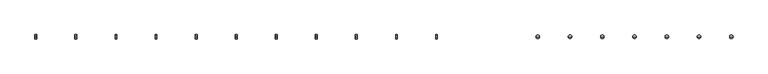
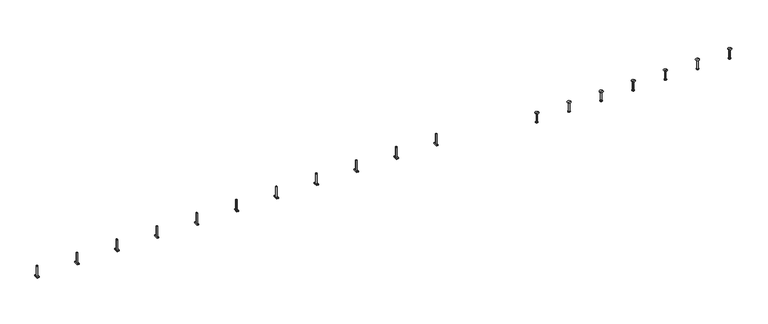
"""IFC4 building model written with IfcOpenShell, lengths in millimetres: fastener geometry, JTA-W JORDAHL® AnchorChannels : JTA-W L=6000 mm."""

from ifc_helpers import new_model, si_unit, frame, origin, place, context, project, spatial, polyline, circle_curve, source, transform, mapped, element, save
from ifc_brep_helpers import plane_surface, cylinder_surface, revolved_surface, advanced_brep


def fastener_70fd4501(model_context):
    return source(origin(), model_context, "Body", "AdvancedBrep", [
        advanced_brep(
        [(3468.8421053, 16.25, -3.0), (3468.8421053, -16.25, -3.0), (3468.8421053, -16.25, -11.0), (3468.8421053, 16.25, -11.0), (3454.8421053, 16.25, -3.0), (3454.8421053, 16.25, -11.0), (3454.8421053, -16.25, -11.0), (3454.8421053, -16.25, -3.0), (3466.8421053, 0.0, -3.0), (3456.8421053, 0.0, -3.0), (3456.8421053, 0.0, 77.0), (3466.8421053, 0.0, 77.0)],
        [
            (0, 1),
            (1, 2),
            (2, 3),
            (3, 0),
            (4, 5),
            (5, 6),
            (6, 7),
            (7, 4),
            (0, 4),
            (7, 1),
            (8, 9, circle_curve(frame((3461.8421053, 0.0, -3.0), z_axis=(0.0, 0.0, -1.0), x_axis=(1.0, 0.0, 0.0)), 5.0)),
            (9, 8, circle_curve(frame((3461.8421053, 0.0, -3.0), z_axis=(0.0, 0.0, -1.0), x_axis=(1.0, 0.0, 0.0)), 5.0)),
            (6, 2),
            (5, 3),
            (10, 11, circle_curve(frame((3461.8421053, 0.0, 77.0), z_axis=(0.0, 0.0, 1.0), x_axis=(1.0, 0.0, 0.0)), 5.0)),
            (11, 10, circle_curve(frame((3461.8421053, 0.0, 77.0), z_axis=(0.0, 0.0, 1.0), x_axis=(1.0, 0.0, 0.0)), 5.0)),
            (10, 9),
            (8, 11),
        ],
        [
            plane_surface(frame((3468.8421053, -16.25, -3.0), z_axis=(1.0, 0.0, 0.0), x_axis=(0.0, -1.0, 0.0))),
            plane_surface(frame((3454.8421053, -16.25, -3.0), z_axis=(-1.0, 0.0, 0.0), x_axis=(0.0, 1.0, 0.0))),
            plane_surface(frame((3468.8421053, 16.25, -3.0), z_axis=(0.0, 0.0, 1.0), x_axis=(-1.0, 0.0, 0.0))),
            plane_surface(frame((3468.8421053, -16.25, -3.0), z_axis=(0.0, -1.0, 0.0), x_axis=(-1.0, 0.0, 0.0))),
            plane_surface(frame((3468.8421053, -16.25, -11.0), z_axis=(0.0, 0.0, -1.0), x_axis=(-1.0, 0.0, 0.0))),
            plane_surface(frame((3468.8421053, 16.25, -11.0), z_axis=(0.0, 1.0, 0.0), x_axis=(-1.0, 0.0, 0.0))),
            plane_surface(frame((3466.8421053, 0.0, 77.0), z_axis=(0.0, 0.0, 1.0), x_axis=(0.0, 1.0, 0.0))),
            cylinder_surface(frame((3461.8421053, 0.0, -3.0), z_axis=(0.0, 0.0, 1.0), x_axis=(1.0, 0.0, 0.0)), 5.0),
        ],
        [
            (0, [[1, 2, 3, 4]]),
            (1, [[5, 6, 7, 8]]),
            (2, [[-1, 9, -8, 10], [11, 12]]),
            (3, [[-2, -10, -7, 13]]),
            (4, [[-3, -13, -6, 14]]),
            (5, [[-4, -14, -5, -9]]),
            (6, [[15, 16]]),
            (7, [[-15, 17, -11, 18]]),
            (7, [[-16, -18, -12, -17]]),
        ],
    ),
        advanced_brep(
        [(3160.9473684, 16.25, -3.0), (3160.9473684, -16.25, -3.0), (3160.9473684, -16.25, -11.0), (3160.9473684, 16.25, -11.0), (3146.9473684, 16.25, -3.0), (3146.9473684, 16.25, -11.0), (3146.9473684, -16.25, -11.0), (3146.9473684, -16.25, -3.0), (3158.9473684, 0.0, -3.0), (3148.9473684, 0.0, -3.0), (3148.9473684, 0.0, 77.0), (3158.9473684, 0.0, 77.0)],
        [
            (0, 1),
            (1, 2),
            (2, 3),
            (3, 0),
            (4, 5),
            (5, 6),
            (6, 7),
            (7, 4),
            (0, 4),
            (7, 1),
            (8, 9, circle_curve(frame((3153.9473684, 0.0, -3.0), z_axis=(0.0, 0.0, -1.0), x_axis=(1.0, 0.0, 0.0)), 5.0)),
            (9, 8, circle_curve(frame((3153.9473684, 0.0, -3.0), z_axis=(0.0, 0.0, -1.0), x_axis=(1.0, 0.0, 0.0)), 5.0)),
            (6, 2),
            (5, 3),
            (10, 11, circle_curve(frame((3153.9473684, 0.0, 77.0), z_axis=(0.0, 0.0, 1.0), x_axis=(1.0, 0.0, 0.0)), 5.0)),
            (11, 10, circle_curve(frame((3153.9473684, 0.0, 77.0), z_axis=(0.0, 0.0, 1.0), x_axis=(1.0, 0.0, 0.0)), 5.0)),
            (10, 9),
            (8, 11),
        ],
        [
            plane_surface(frame((3160.9473684, -16.25, -3.0), z_axis=(1.0, 0.0, 0.0), x_axis=(0.0, -1.0, 0.0))),
            plane_surface(frame((3146.9473684, -16.25, -3.0), z_axis=(-1.0, 0.0, 0.0), x_axis=(0.0, 1.0, 0.0))),
            plane_surface(frame((3160.9473684, 16.25, -3.0), z_axis=(0.0, 0.0, 1.0), x_axis=(-1.0, 0.0, 0.0))),
            plane_surface(frame((3160.9473684, -16.25, -3.0), z_axis=(0.0, -1.0, 0.0), x_axis=(-1.0, 0.0, 0.0))),
            plane_surface(frame((3160.9473684, -16.25, -11.0), z_axis=(0.0, 0.0, -1.0), x_axis=(-1.0, 0.0, 0.0))),
            plane_surface(frame((3160.9473684, 16.25, -11.0), z_axis=(0.0, 1.0, 0.0), x_axis=(-1.0, 0.0, 0.0))),
            plane_surface(frame((3158.9473684, 0.0, 77.0), z_axis=(0.0, 0.0, 1.0), x_axis=(0.0, 1.0, 0.0))),
            cylinder_surface(frame((3153.9473684, 0.0, -3.0), z_axis=(0.0, 0.0, 1.0), x_axis=(1.0, 0.0, 0.0)), 5.0),
        ],
        [
            (0, [[1, 2, 3, 4]]),
            (1, [[5, 6, 7, 8]]),
            (2, [[-1, 9, -8, 10], [11, 12]]),
            (3, [[-2, -10, -7, 13]]),
            (4, [[-3, -13, -6, 14]]),
            (5, [[-4, -14, -5, -9]]),
            (6, [[15, 16]]),
            (7, [[-15, 17, -11, 18]]),
            (7, [[-16, -18, -12, -17]]),
        ],
    ),
        advanced_brep(
        [(2853.0526316, 16.25, -3.0), (2853.0526316, -16.25, -3.0), (2853.0526316, -16.25, -11.0), (2853.0526316, 16.25, -11.0), (2839.0526316, 16.25, -3.0), (2839.0526316, 16.25, -11.0), (2839.0526316, -16.25, -11.0), (2839.0526316, -16.25, -3.0), (2851.0526316, 0.0, -3.0), (2841.0526316, 0.0, -3.0), (2841.0526316, 0.0, 77.0), (2851.0526316, 0.0, 77.0)],
        [
            (0, 1),
            (1, 2),
            (2, 3),
            (3, 0),
            (4, 5),
            (5, 6),
            (6, 7),
            (7, 4),
            (0, 4),
            (7, 1),
            (8, 9, circle_curve(frame((2846.0526316, 0.0, -3.0), z_axis=(0.0, 0.0, -1.0), x_axis=(1.0, 0.0, 0.0)), 5.0)),
            (9, 8, circle_curve(frame((2846.0526316, 0.0, -3.0), z_axis=(0.0, 0.0, -1.0), x_axis=(1.0, 0.0, 0.0)), 5.0)),
            (6, 2),
            (5, 3),
            (10, 11, circle_curve(frame((2846.0526316, 0.0, 77.0), z_axis=(0.0, 0.0, 1.0), x_axis=(1.0, 0.0, 0.0)), 5.0)),
            (11, 10, circle_curve(frame((2846.0526316, 0.0, 77.0), z_axis=(0.0, 0.0, 1.0), x_axis=(1.0, 0.0, 0.0)), 5.0)),
            (10, 9),
            (8, 11),
        ],
        [
            plane_surface(frame((2853.0526316, -16.25, -3.0), z_axis=(1.0, 0.0, 0.0), x_axis=(0.0, -1.0, 0.0))),
            plane_surface(frame((2839.0526316, -16.25, -3.0), z_axis=(-1.0, 0.0, 0.0), x_axis=(0.0, 1.0, 0.0))),
            plane_surface(frame((2853.0526316, 16.25, -3.0), z_axis=(0.0, 0.0, 1.0), x_axis=(-1.0, 0.0, 0.0))),
            plane_surface(frame((2853.0526316, -16.25, -3.0), z_axis=(0.0, -1.0, 0.0), x_axis=(-1.0, 0.0, 0.0))),
            plane_surface(frame((2853.0526316, -16.25, -11.0), z_axis=(0.0, 0.0, -1.0), x_axis=(-1.0, 0.0, 0.0))),
            plane_surface(frame((2853.0526316, 16.25, -11.0), z_axis=(0.0, 1.0, 0.0), x_axis=(-1.0, 0.0, 0.0))),
            plane_surface(frame((2851.0526316, 0.0, 77.0), z_axis=(0.0, 0.0, 1.0), x_axis=(0.0, 1.0, 0.0))),
            cylinder_surface(frame((2846.0526316, 0.0, -3.0), z_axis=(0.0, 0.0, 1.0), x_axis=(1.0, 0.0, 0.0)), 5.0),
        ],
        [
            (0, [[1, 2, 3, 4]]),
            (1, [[5, 6, 7, 8]]),
            (2, [[-1, 9, -8, 10], [11, 12]]),
            (3, [[-2, -10, -7, 13]]),
            (4, [[-3, -13, -6, 14]]),
            (5, [[-4, -14, -5, -9]]),
            (6, [[15, 16]]),
            (7, [[-15, 17, -11, 18]]),
            (7, [[-16, -18, -12, -17]]),
        ],
    ),
        advanced_brep(
        [(2545.1578947, 16.25, -3.0), (2545.1578947, -16.25, -3.0), (2545.1578947, -16.25, -11.0), (2545.1578947, 16.25, -11.0), (2531.1578947, 16.25, -3.0), (2531.1578947, 16.25, -11.0), (2531.1578947, -16.25, -11.0), (2531.1578947, -16.25, -3.0), (2543.1578947, 0.0, -3.0), (2533.1578947, 0.0, -3.0), (2533.1578947, 0.0, 77.0), (2543.1578947, 0.0, 77.0)],
        [
            (0, 1),
            (1, 2),
            (2, 3),
            (3, 0),
            (4, 5),
            (5, 6),
            (6, 7),
            (7, 4),
            (0, 4),
            (7, 1),
            (8, 9, circle_curve(frame((2538.1578947, 0.0, -3.0), z_axis=(0.0, 0.0, -1.0), x_axis=(1.0, 0.0, 0.0)), 5.0)),
            (9, 8, circle_curve(frame((2538.1578947, 0.0, -3.0), z_axis=(0.0, 0.0, -1.0), x_axis=(1.0, 0.0, 0.0)), 5.0)),
            (6, 2),
            (5, 3),
            (10, 11, circle_curve(frame((2538.1578947, 0.0, 77.0), z_axis=(0.0, 0.0, 1.0), x_axis=(1.0, 0.0, 0.0)), 5.0)),
            (11, 10, circle_curve(frame((2538.1578947, 0.0, 77.0), z_axis=(0.0, 0.0, 1.0), x_axis=(1.0, 0.0, 0.0)), 5.0)),
            (10, 9),
            (8, 11),
        ],
        [
            plane_surface(frame((2545.1578947, -16.25, -3.0), z_axis=(1.0, 0.0, 0.0), x_axis=(0.0, -1.0, 0.0))),
            plane_surface(frame((2531.1578947, -16.25, -3.0), z_axis=(-1.0, 0.0, 0.0), x_axis=(0.0, 1.0, 0.0))),
            plane_surface(frame((2545.1578947, 16.25, -3.0), z_axis=(0.0, 0.0, 1.0), x_axis=(-1.0, 0.0, 0.0))),
            plane_surface(frame((2545.1578947, -16.25, -3.0), z_axis=(0.0, -1.0, 0.0), x_axis=(-1.0, 0.0, 0.0))),
            plane_surface(frame((2545.1578947, -16.25, -11.0), z_axis=(0.0, 0.0, -1.0), x_axis=(-1.0, 0.0, 0.0))),
            plane_surface(frame((2545.1578947, 16.25, -11.0), z_axis=(0.0, 1.0, 0.0), x_axis=(-1.0, 0.0, 0.0))),
            plane_surface(frame((2543.1578947, 0.0, 77.0), z_axis=(0.0, 0.0, 1.0), x_axis=(0.0, 1.0, 0.0))),
            cylinder_surface(frame((2538.1578947, 0.0, -3.0), z_axis=(0.0, 0.0, 1.0), x_axis=(1.0, 0.0, 0.0)), 5.0),
        ],
        [
            (0, [[1, 2, 3, 4]]),
            (1, [[5, 6, 7, 8]]),
            (2, [[-1, 9, -8, 10], [11, 12]]),
            (3, [[-2, -10, -7, 13]]),
            (4, [[-3, -13, -6, 14]]),
            (5, [[-4, -14, -5, -9]]),
            (6, [[15, 16]]),
            (7, [[-15, 17, -11, 18]]),
            (7, [[-16, -18, -12, -17]]),
        ],
    ),
        advanced_brep(
        [(2237.2631579, 16.25, -3.0), (2237.2631579, -16.25, -3.0), (2237.2631579, -16.25, -11.0), (2237.2631579, 16.25, -11.0), (2223.2631579, 16.25, -3.0), (2223.2631579, 16.25, -11.0), (2223.2631579, -16.25, -11.0), (2223.2631579, -16.25, -3.0), (2235.2631579, 0.0, -3.0), (2225.2631579, 0.0, -3.0), (2225.2631579, 0.0, 77.0), (2235.2631579, 0.0, 77.0)],
        [
            (0, 1),
            (1, 2),
            (2, 3),
            (3, 0),
            (4, 5),
            (5, 6),
            (6, 7),
            (7, 4),
            (0, 4),
            (7, 1),
            (8, 9, circle_curve(frame((2230.2631579, 0.0, -3.0), z_axis=(0.0, 0.0, -1.0), x_axis=(1.0, 0.0, 0.0)), 5.0)),
            (9, 8, circle_curve(frame((2230.2631579, 0.0, -3.0), z_axis=(0.0, 0.0, -1.0), x_axis=(1.0, 0.0, 0.0)), 5.0)),
            (6, 2),
            (5, 3),
            (10, 11, circle_curve(frame((2230.2631579, 0.0, 77.0), z_axis=(0.0, 0.0, 1.0), x_axis=(1.0, 0.0, 0.0)), 5.0)),
            (11, 10, circle_curve(frame((2230.2631579, 0.0, 77.0), z_axis=(0.0, 0.0, 1.0), x_axis=(1.0, 0.0, 0.0)), 5.0)),
            (10, 9),
            (8, 11),
        ],
        [
            plane_surface(frame((2237.2631579, -16.25, -3.0), z_axis=(1.0, 0.0, 0.0), x_axis=(0.0, -1.0, 0.0))),
            plane_surface(frame((2223.2631579, -16.25, -3.0), z_axis=(-1.0, 0.0, 0.0), x_axis=(0.0, 1.0, 0.0))),
            plane_surface(frame((2237.2631579, 16.25, -3.0), z_axis=(0.0, 0.0, 1.0), x_axis=(-1.0, 0.0, 0.0))),
            plane_surface(frame((2237.2631579, -16.25, -3.0), z_axis=(0.0, -1.0, 0.0), x_axis=(-1.0, 0.0, 0.0))),
            plane_surface(frame((2237.2631579, -16.25, -11.0), z_axis=(0.0, 0.0, -1.0), x_axis=(-1.0, 0.0, 0.0))),
            plane_surface(frame((2237.2631579, 16.25, -11.0), z_axis=(0.0, 1.0, 0.0), x_axis=(-1.0, 0.0, 0.0))),
            plane_surface(frame((2235.2631579, 0.0, 77.0), z_axis=(0.0, 0.0, 1.0), x_axis=(0.0, 1.0, 0.0))),
            cylinder_surface(frame((2230.2631579, 0.0, -3.0), z_axis=(0.0, 0.0, 1.0), x_axis=(1.0, 0.0, 0.0)), 5.0),
        ],
        [
            (0, [[1, 2, 3, 4]]),
            (1, [[5, 6, 7, 8]]),
            (2, [[-1, 9, -8, 10], [11, 12]]),
            (3, [[-2, -10, -7, 13]]),
            (4, [[-3, -13, -6, 14]]),
            (5, [[-4, -14, -5, -9]]),
            (6, [[15, 16]]),
            (7, [[-15, 17, -11, 18]]),
            (7, [[-16, -18, -12, -17]]),
        ],
    ),
        advanced_brep(
        [(1929.3684211, 16.25, -3.0), (1929.3684211, -16.25, -3.0), (1929.3684211, -16.25, -11.0), (1929.3684211, 16.25, -11.0), (1915.3684211, 16.25, -3.0), (1915.3684211, 16.25, -11.0), (1915.3684211, -16.25, -11.0), (1915.3684211, -16.25, -3.0), (1927.3684211, 0.0, -3.0), (1917.3684211, 0.0, -3.0), (1917.3684211, 0.0, 77.0), (1927.3684211, 0.0, 77.0)],
        [
            (0, 1),
            (1, 2),
            (2, 3),
            (3, 0),
            (4, 5),
            (5, 6),
            (6, 7),
            (7, 4),
            (0, 4),
            (7, 1),
            (8, 9, circle_curve(frame((1922.3684211, 0.0, -3.0), z_axis=(0.0, 0.0, -1.0), x_axis=(1.0, 0.0, 0.0)), 5.0)),
            (9, 8, circle_curve(frame((1922.3684211, 0.0, -3.0), z_axis=(0.0, 0.0, -1.0), x_axis=(1.0, 0.0, 0.0)), 5.0)),
            (6, 2),
            (5, 3),
            (10, 11, circle_curve(frame((1922.3684211, 0.0, 77.0), z_axis=(0.0, 0.0, 1.0), x_axis=(1.0, 0.0, 0.0)), 5.0)),
            (11, 10, circle_curve(frame((1922.3684211, 0.0, 77.0), z_axis=(0.0, 0.0, 1.0), x_axis=(1.0, 0.0, 0.0)), 5.0)),
            (10, 9),
            (8, 11),
        ],
        [
            plane_surface(frame((1929.3684211, -16.25, -3.0), z_axis=(1.0, 0.0, 0.0), x_axis=(0.0, -1.0, 0.0))),
            plane_surface(frame((1915.3684211, -16.25, -3.0), z_axis=(-1.0, 0.0, 0.0), x_axis=(0.0, 1.0, 0.0))),
            plane_surface(frame((1929.3684211, 16.25, -3.0), z_axis=(0.0, 0.0, 1.0), x_axis=(-1.0, 0.0, 0.0))),
            plane_surface(frame((1929.3684211, -16.25, -3.0), z_axis=(0.0, -1.0, 0.0), x_axis=(-1.0, 0.0, 0.0))),
            plane_surface(frame((1929.3684211, -16.25, -11.0), z_axis=(0.0, 0.0, -1.0), x_axis=(-1.0, 0.0, 0.0))),
            plane_surface(frame((1929.3684211, 16.25, -11.0), z_axis=(0.0, 1.0, 0.0), x_axis=(-1.0, 0.0, 0.0))),
            plane_surface(frame((1927.3684211, 0.0, 77.0), z_axis=(0.0, 0.0, 1.0), x_axis=(0.0, 1.0, 0.0))),
            cylinder_surface(frame((1922.3684211, 0.0, -3.0), z_axis=(0.0, 0.0, 1.0), x_axis=(1.0, 0.0, 0.0)), 5.0),
        ],
        [
            (0, [[1, 2, 3, 4]]),
            (1, [[5, 6, 7, 8]]),
            (2, [[-1, 9, -8, 10], [11, 12]]),
            (3, [[-2, -10, -7, 13]]),
            (4, [[-3, -13, -6, 14]]),
            (5, [[-4, -14, -5, -9]]),
            (6, [[15, 16]]),
            (7, [[-15, 17, -11, 18]]),
            (7, [[-16, -18, -12, -17]]),
        ],
    ),
        advanced_brep(
        [(1621.4736842, 16.25, -3.0), (1621.4736842, -16.25, -3.0), (1621.4736842, -16.25, -11.0), (1621.4736842, 16.25, -11.0), (1607.4736842, 16.25, -3.0), (1607.4736842, 16.25, -11.0), (1607.4736842, -16.25, -11.0), (1607.4736842, -16.25, -3.0), (1619.4736842, 0.0, -3.0), (1609.4736842, 0.0, -3.0), (1609.4736842, 0.0, 77.0), (1619.4736842, 0.0, 77.0)],
        [
            (0, 1),
            (1, 2),
            (2, 3),
            (3, 0),
            (4, 5),
            (5, 6),
            (6, 7),
            (7, 4),
            (0, 4),
            (7, 1),
            (8, 9, circle_curve(frame((1614.4736842, 0.0, -3.0), z_axis=(0.0, 0.0, -1.0), x_axis=(1.0, 0.0, 0.0)), 5.0)),
            (9, 8, circle_curve(frame((1614.4736842, 0.0, -3.0), z_axis=(0.0, 0.0, -1.0), x_axis=(1.0, 0.0, 0.0)), 5.0)),
            (6, 2),
            (5, 3),
            (10, 11, circle_curve(frame((1614.4736842, 0.0, 77.0), z_axis=(0.0, 0.0, 1.0), x_axis=(1.0, 0.0, 0.0)), 5.0)),
            (11, 10, circle_curve(frame((1614.4736842, 0.0, 77.0), z_axis=(0.0, 0.0, 1.0), x_axis=(1.0, 0.0, 0.0)), 5.0)),
            (10, 9),
            (8, 11),
        ],
        [
            plane_surface(frame((1621.4736842, -16.25, -3.0), z_axis=(1.0, 0.0, 0.0), x_axis=(0.0, -1.0, 0.0))),
            plane_surface(frame((1607.4736842, -16.25, -3.0), z_axis=(-1.0, 0.0, 0.0), x_axis=(0.0, 1.0, 0.0))),
            plane_surface(frame((1621.4736842, 16.25, -3.0), z_axis=(0.0, 0.0, 1.0), x_axis=(-1.0, 0.0, 0.0))),
            plane_surface(frame((1621.4736842, -16.25, -3.0), z_axis=(0.0, -1.0, 0.0), x_axis=(-1.0, 0.0, 0.0))),
            plane_surface(frame((1621.4736842, -16.25, -11.0), z_axis=(0.0, 0.0, -1.0), x_axis=(-1.0, 0.0, 0.0))),
            plane_surface(frame((1621.4736842, 16.25, -11.0), z_axis=(0.0, 1.0, 0.0), x_axis=(-1.0, 0.0, 0.0))),
            plane_surface(frame((1619.4736842, 0.0, 77.0), z_axis=(0.0, 0.0, 1.0), x_axis=(0.0, 1.0, 0.0))),
            cylinder_surface(frame((1614.4736842, 0.0, -3.0), z_axis=(0.0, 0.0, 1.0), x_axis=(1.0, 0.0, 0.0)), 5.0),
        ],
        [
            (0, [[1, 2, 3, 4]]),
            (1, [[5, 6, 7, 8]]),
            (2, [[-1, 9, -8, 10], [11, 12]]),
            (3, [[-2, -10, -7, 13]]),
            (4, [[-3, -13, -6, 14]]),
            (5, [[-4, -14, -5, -9]]),
            (6, [[15, 16]]),
            (7, [[-15, 17, -11, 18]]),
            (7, [[-16, -18, -12, -17]]),
        ],
    ),
        advanced_brep(
        [(1313.5789474, 16.25, -3.0), (1313.5789474, -16.25, -3.0), (1313.5789474, -16.25, -11.0), (1313.5789474, 16.25, -11.0), (1299.5789474, 16.25, -3.0), (1299.5789474, 16.25, -11.0), (1299.5789474, -16.25, -11.0), (1299.5789474, -16.25, -3.0), (1311.5789474, 0.0, -3.0), (1301.5789474, 0.0, -3.0), (1301.5789474, 0.0, 77.0), (1311.5789474, 0.0, 77.0)],
        [
            (0, 1),
            (1, 2),
            (2, 3),
            (3, 0),
            (4, 5),
            (5, 6),
            (6, 7),
            (7, 4),
            (0, 4),
            (7, 1),
            (8, 9, circle_curve(frame((1306.5789474, 0.0, -3.0), z_axis=(0.0, 0.0, -1.0), x_axis=(1.0, 0.0, 0.0)), 5.0)),
            (9, 8, circle_curve(frame((1306.5789474, 0.0, -3.0), z_axis=(0.0, 0.0, -1.0), x_axis=(1.0, 0.0, 0.0)), 5.0)),
            (6, 2),
            (5, 3),
            (10, 11, circle_curve(frame((1306.5789474, 0.0, 77.0), z_axis=(0.0, 0.0, 1.0), x_axis=(1.0, 0.0, 0.0)), 5.0)),
            (11, 10, circle_curve(frame((1306.5789474, 0.0, 77.0), z_axis=(0.0, 0.0, 1.0), x_axis=(1.0, 0.0, 0.0)), 5.0)),
            (10, 9),
            (8, 11),
        ],
        [
            plane_surface(frame((1313.5789474, -16.25, -3.0), z_axis=(1.0, 0.0, 0.0), x_axis=(0.0, -1.0, 0.0))),
            plane_surface(frame((1299.5789474, -16.25, -3.0), z_axis=(-1.0, 0.0, 0.0), x_axis=(0.0, 1.0, 0.0))),
            plane_surface(frame((1313.5789474, 16.25, -3.0), z_axis=(0.0, 0.0, 1.0), x_axis=(-1.0, 0.0, 0.0))),
            plane_surface(frame((1313.5789474, -16.25, -3.0), z_axis=(0.0, -1.0, 0.0), x_axis=(-1.0, 0.0, 0.0))),
            plane_surface(frame((1313.5789474, -16.25, -11.0), z_axis=(0.0, 0.0, -1.0), x_axis=(-1.0, 0.0, 0.0))),
            plane_surface(frame((1313.5789474, 16.25, -11.0), z_axis=(0.0, 1.0, 0.0), x_axis=(-1.0, 0.0, 0.0))),
            plane_surface(frame((1311.5789474, 0.0, 77.0), z_axis=(0.0, 0.0, 1.0), x_axis=(0.0, 1.0, 0.0))),
            cylinder_surface(frame((1306.5789474, 0.0, -3.0), z_axis=(0.0, 0.0, 1.0), x_axis=(1.0, 0.0, 0.0)), 5.0),
        ],
        [
            (0, [[1, 2, 3, 4]]),
            (1, [[5, 6, 7, 8]]),
            (2, [[-1, 9, -8, 10], [11, 12]]),
            (3, [[-2, -10, -7, 13]]),
            (4, [[-3, -13, -6, 14]]),
            (5, [[-4, -14, -5, -9]]),
            (6, [[15, 16]]),
            (7, [[-15, 17, -11, 18]]),
            (7, [[-16, -18, -12, -17]]),
        ],
    ),
        advanced_brep(
        [(1005.6842105, 16.25, -3.0), (1005.6842105, -16.25, -3.0), (1005.6842105, -16.25, -11.0), (1005.6842105, 16.25, -11.0), (991.6842105, 16.25, -3.0), (991.6842105, 16.25, -11.0), (991.6842105, -16.25, -11.0), (991.6842105, -16.25, -3.0), (1003.6842105, 0.0, -3.0), (993.6842105, 0.0, -3.0), (993.6842105, 0.0, 77.0), (1003.6842105, 0.0, 77.0)],
        [
            (0, 1),
            (1, 2),
            (2, 3),
            (3, 0),
            (4, 5),
            (5, 6),
            (6, 7),
            (7, 4),
            (0, 4),
            (7, 1),
            (8, 9, circle_curve(frame((998.6842105, 0.0, -3.0), z_axis=(0.0, 0.0, -1.0), x_axis=(1.0, 0.0, 0.0)), 5.0)),
            (9, 8, circle_curve(frame((998.6842105, 0.0, -3.0), z_axis=(0.0, 0.0, -1.0), x_axis=(1.0, 0.0, 0.0)), 5.0)),
            (6, 2),
            (5, 3),
            (10, 11, circle_curve(frame((998.6842105, 0.0, 77.0), z_axis=(0.0, 0.0, 1.0), x_axis=(1.0, 0.0, 0.0)), 5.0)),
            (11, 10, circle_curve(frame((998.6842105, 0.0, 77.0), z_axis=(0.0, 0.0, 1.0), x_axis=(1.0, 0.0, 0.0)), 5.0)),
            (10, 9),
            (8, 11),
        ],
        [
            plane_surface(frame((1005.6842105, -16.25, -3.0), z_axis=(1.0, 0.0, 0.0), x_axis=(0.0, -1.0, 0.0))),
            plane_surface(frame((991.6842105, -16.25, -3.0), z_axis=(-1.0, 0.0, 0.0), x_axis=(0.0, 1.0, 0.0))),
            plane_surface(frame((1005.6842105, 16.25, -3.0), z_axis=(0.0, 0.0, 1.0), x_axis=(-1.0, 0.0, 0.0))),
            plane_surface(frame((1005.6842105, -16.25, -3.0), z_axis=(0.0, -1.0, 0.0), x_axis=(-1.0, 0.0, 0.0))),
            plane_surface(frame((1005.6842105, -16.25, -11.0), z_axis=(0.0, 0.0, -1.0), x_axis=(-1.0, 0.0, 0.0))),
            plane_surface(frame((1005.6842105, 16.25, -11.0), z_axis=(0.0, 1.0, 0.0), x_axis=(-1.0, 0.0, 0.0))),
            plane_surface(frame((1003.6842105, 0.0, 77.0), z_axis=(0.0, 0.0, 1.0), x_axis=(0.0, 1.0, 0.0))),
            cylinder_surface(frame((998.6842105, 0.0, -3.0), z_axis=(0.0, 0.0, 1.0), x_axis=(1.0, 0.0, 0.0)), 5.0),
        ],
        [
            (0, [[1, 2, 3, 4]]),
            (1, [[5, 6, 7, 8]]),
            (2, [[-1, 9, -8, 10], [11, 12]]),
            (3, [[-2, -10, -7, 13]]),
            (4, [[-3, -13, -6, 14]]),
            (5, [[-4, -14, -5, -9]]),
            (6, [[15, 16]]),
            (7, [[-15, 17, -11, 18]]),
            (7, [[-16, -18, -12, -17]]),
        ],
    ),
        advanced_brep(
        [(697.7894737, 16.25, -3.0), (697.7894737, -16.25, -3.0), (697.7894737, -16.25, -11.0), (697.7894737, 16.25, -11.0), (683.7894737, 16.25, -3.0), (683.7894737, 16.25, -11.0), (683.7894737, -16.25, -11.0), (683.7894737, -16.25, -3.0), (695.7894737, 0.0, -3.0), (685.7894737, 0.0, -3.0), (685.7894737, 0.0, 77.0), (695.7894737, 0.0, 77.0)],
        [
            (0, 1),
            (1, 2),
            (2, 3),
            (3, 0),
            (4, 5),
            (5, 6),
            (6, 7),
            (7, 4),
            (0, 4),
            (7, 1),
            (8, 9, circle_curve(frame((690.7894737, 0.0, -3.0), z_axis=(0.0, 0.0, -1.0), x_axis=(1.0, 0.0, 0.0)), 5.0)),
            (9, 8, circle_curve(frame((690.7894737, 0.0, -3.0), z_axis=(0.0, 0.0, -1.0), x_axis=(1.0, 0.0, 0.0)), 5.0)),
            (6, 2),
            (5, 3),
            (10, 11, circle_curve(frame((690.7894737, 0.0, 77.0), z_axis=(0.0, 0.0, 1.0), x_axis=(1.0, 0.0, 0.0)), 5.0)),
            (11, 10, circle_curve(frame((690.7894737, 0.0, 77.0), z_axis=(0.0, 0.0, 1.0), x_axis=(1.0, 0.0, 0.0)), 5.0)),
            (10, 9),
            (8, 11),
        ],
        [
            plane_surface(frame((697.7894737, -16.25, -3.0), z_axis=(1.0, 0.0, 0.0), x_axis=(0.0, -1.0, 0.0))),
            plane_surface(frame((683.7894737, -16.25, -3.0), z_axis=(-1.0, 0.0, 0.0), x_axis=(0.0, 1.0, 0.0))),
            plane_surface(frame((697.7894737, 16.25, -3.0), z_axis=(0.0, 0.0, 1.0), x_axis=(-1.0, 0.0, 0.0))),
            plane_surface(frame((697.7894737, -16.25, -3.0), z_axis=(0.0, -1.0, 0.0), x_axis=(-1.0, 0.0, 0.0))),
            plane_surface(frame((697.7894737, -16.25, -11.0), z_axis=(0.0, 0.0, -1.0), x_axis=(-1.0, 0.0, 0.0))),
            plane_surface(frame((697.7894737, 16.25, -11.0), z_axis=(0.0, 1.0, 0.0), x_axis=(-1.0, 0.0, 0.0))),
            plane_surface(frame((695.7894737, 0.0, 77.0), z_axis=(0.0, 0.0, 1.0), x_axis=(0.0, 1.0, 0.0))),
            cylinder_surface(frame((690.7894737, 0.0, -3.0), z_axis=(0.0, 0.0, 1.0), x_axis=(1.0, 0.0, 0.0)), 5.0),
        ],
        [
            (0, [[1, 2, 3, 4]]),
            (1, [[5, 6, 7, 8]]),
            (2, [[-1, 9, -8, 10], [11, 12]]),
            (3, [[-2, -10, -7, 13]]),
            (4, [[-3, -13, -6, 14]]),
            (5, [[-4, -14, -5, -9]]),
            (6, [[15, 16]]),
            (7, [[-15, 17, -11, 18]]),
            (7, [[-16, -18, -12, -17]]),
        ],
    ),
        advanced_brep(
        [(389.8947368, 16.25, -3.0), (389.8947368, -16.25, -3.0), (389.8947368, -16.25, -11.0), (389.8947368, 16.25, -11.0), (375.8947368, 16.25, -3.0), (375.8947368, 16.25, -11.0), (375.8947368, -16.25, -11.0), (375.8947368, -16.25, -3.0), (387.8947368, 0.0, -3.0), (377.8947368, 0.0, -3.0), (377.8947368, 0.0, 77.0), (387.8947368, 0.0, 77.0)],
        [
            (0, 1),
            (1, 2),
            (2, 3),
            (3, 0),
            (4, 5),
            (5, 6),
            (6, 7),
            (7, 4),
            (0, 4),
            (7, 1),
            (8, 9, circle_curve(frame((382.8947368, 0.0, -3.0), z_axis=(0.0, 0.0, -1.0), x_axis=(1.0, 0.0, 0.0)), 5.0)),
            (9, 8, circle_curve(frame((382.8947368, 0.0, -3.0), z_axis=(0.0, 0.0, -1.0), x_axis=(1.0, 0.0, 0.0)), 5.0)),
            (6, 2),
            (5, 3),
            (10, 11, circle_curve(frame((382.8947368, 0.0, 77.0), z_axis=(0.0, 0.0, 1.0), x_axis=(1.0, 0.0, 0.0)), 5.0)),
            (11, 10, circle_curve(frame((382.8947368, 0.0, 77.0), z_axis=(0.0, 0.0, 1.0), x_axis=(1.0, 0.0, 0.0)), 5.0)),
            (10, 9),
            (8, 11),
        ],
        [
            plane_surface(frame((389.8947368, -16.25, -3.0), z_axis=(1.0, 0.0, 0.0), x_axis=(0.0, -1.0, 0.0))),
            plane_surface(frame((375.8947368, -16.25, -3.0), z_axis=(-1.0, 0.0, 0.0), x_axis=(0.0, 1.0, 0.0))),
            plane_surface(frame((389.8947368, 16.25, -3.0), z_axis=(0.0, 0.0, 1.0), x_axis=(-1.0, 0.0, 0.0))),
            plane_surface(frame((389.8947368, -16.25, -3.0), z_axis=(0.0, -1.0, 0.0), x_axis=(-1.0, 0.0, 0.0))),
            plane_surface(frame((389.8947368, -16.25, -11.0), z_axis=(0.0, 0.0, -1.0), x_axis=(-1.0, 0.0, 0.0))),
            plane_surface(frame((389.8947368, 16.25, -11.0), z_axis=(0.0, 1.0, 0.0), x_axis=(-1.0, 0.0, 0.0))),
            plane_surface(frame((387.8947368, 0.0, 77.0), z_axis=(0.0, 0.0, 1.0), x_axis=(0.0, 1.0, 0.0))),
            cylinder_surface(frame((382.8947368, 0.0, -3.0), z_axis=(0.0, 0.0, 1.0), x_axis=(1.0, 0.0, 0.0)), 5.0),
        ],
        [
            (0, [[1, 2, 3, 4]]),
            (1, [[5, 6, 7, 8]]),
            (2, [[-1, 9, -8, 10], [11, 12]]),
            (3, [[-2, -10, -7, 13]]),
            (4, [[-3, -13, -6, 14]]),
            (5, [[-4, -14, -5, -9]]),
            (6, [[15, 16]]),
            (7, [[-15, 17, -11, 18]]),
            (7, [[-16, -18, -12, -17]]),
        ],
    ),
        advanced_brep(
        [(5727.0833333, 0.0, -22.0), (5740.5833333, 0.0, -22.0), (5713.5833333, 0.0, -22.0), (5718.5833333, 0.0, -100.0), (5735.5833333, 0.0, -100.0), (5727.0833333, 0.0, -100.0), (5718.5833333, 0.0, -98.0), (5735.5833333, 0.0, -98.0), (5722.5833333, 0.0, -95.6905989), (5731.5833333, 0.0, -95.6905989), (5722.5833333, 0.0, -24.5), (5731.5833333, 0.0, -24.5)],
        [
            (0, 1),
            (1, 2, circle_curve(frame((5727.0833333, 0.0, -22.0), z_axis=(0.0, 0.0, 1.0), x_axis=(1.0, 0.0, 0.0)), 13.5)),
            (2, 0),
            (2, 1, circle_curve(frame((5727.0833333, 0.0, -22.0), z_axis=(0.0, 0.0, 1.0), x_axis=(1.0, 0.0, 0.0)), 13.5)),
            (3, 4, circle_curve(frame((5727.0833333, 0.0, -100.0), z_axis=(0.0, 0.0, -1.0), x_axis=(1.0, 0.0, 0.0)), 8.5)),
            (4, 5),
            (5, 3),
            (4, 3, circle_curve(frame((5727.0833333, 0.0, -100.0), z_axis=(0.0, 0.0, -1.0), x_axis=(1.0, 0.0, 0.0)), 8.5)),
            (6, 7, circle_curve(frame((5727.0833333, 0.0, -98.0), z_axis=(0.0, 0.0, -1.0), x_axis=(1.0, 0.0, 0.0)), 8.5)),
            (7, 4),
            (3, 6),
            (7, 6, circle_curve(frame((5727.0833333, 0.0, -98.0), z_axis=(0.0, 0.0, -1.0), x_axis=(1.0, 0.0, 0.0)), 8.5)),
            (8, 9, circle_curve(frame((5727.0833333, 0.0, -95.6905989), z_axis=(0.0, 0.0, -1.0), x_axis=(1.0, 0.0, 0.0)), 4.5)),
            (9, 7),
            (6, 8),
            (9, 8, circle_curve(frame((5727.0833333, 0.0, -95.6905989), z_axis=(0.0, 0.0, -1.0), x_axis=(1.0, 0.0, 0.0)), 4.5)),
            (10, 11, circle_curve(frame((5727.0833333, 0.0, -24.5), z_axis=(0.0, 0.0, -1.0), x_axis=(1.0, 0.0, 0.0)), 4.5)),
            (11, 9),
            (8, 10),
            (11, 10, circle_curve(frame((5727.0833333, 0.0, -24.5), z_axis=(0.0, 0.0, -1.0), x_axis=(1.0, 0.0, 0.0)), 4.5)),
            (1, 11),
            (10, 2),
        ],
        [
            plane_surface(frame((5727.0833333, 0.0, -22.0), z_axis=(0.0, 0.0, 1.0), x_axis=(1.0, 0.0, 0.0))),
            plane_surface(frame((5727.0833333, 0.0, -100.0), z_axis=(0.0, 0.0, -1.0), x_axis=(1.0, 0.0, 0.0))),
            cylinder_surface(frame((5727.0833333, 0.0, 2292.3150031), z_axis=(0.0, 0.0, 1.0), x_axis=(1.0, 0.0, 0.0)), 8.5),
            revolved_surface(polyline([(5735.5833333, 0.0, -98.0), (5731.5833333, 0.0, -95.6905989)]), (5727.0833333, 0.0, 2292.3150031), (0.0, 0.0, 1.0)),
            cylinder_surface(frame((5727.0833333, 0.0, 2292.3150031), z_axis=(0.0, 0.0, 1.0), x_axis=(1.0, 0.0, 0.0)), 4.5),
            revolved_surface(polyline([(5731.5833333, 0.0, -24.5), (5740.5833333, 0.0, -22.0)]), (5727.0833333, 0.0, 2292.3150031), (0.0, 0.0, 1.0)),
        ],
        [
            (0, [[1, 2, 3]]),
            (0, [[-3, 4, -1]]),
            (1, [[5, 6, 7]]),
            (1, [[8, -7, -6]]),
            (2, [[9, 10, -5, 11]]),
            (2, [[12, -11, -8, -10]]),
            (3, [[13, 14, -9, 15]]),
            (3, [[16, -15, -12, -14]]),
            (4, [[17, 18, -13, 19]]),
            (4, [[20, -19, -16, -18]]),
            (5, [[-2, 21, -17, 22]]),
            (5, [[-4, -22, -20, -21]]),
        ],
    ),
        advanced_brep(
        [(5479.1666667, 0.0, -22.0), (5492.6666667, 0.0, -22.0), (5465.6666667, 0.0, -22.0), (5470.6666667, 0.0, -100.0), (5487.6666667, 0.0, -100.0), (5479.1666667, 0.0, -100.0), (5470.6666667, 0.0, -98.0), (5487.6666667, 0.0, -98.0), (5474.6666667, 0.0, -95.6905989), (5483.6666667, 0.0, -95.6905989), (5474.6666667, 0.0, -24.5), (5483.6666667, 0.0, -24.5)],
        [
            (0, 1),
            (1, 2, circle_curve(frame((5479.1666667, 0.0, -22.0), z_axis=(0.0, 0.0, 1.0), x_axis=(1.0, 0.0, 0.0)), 13.5)),
            (2, 0),
            (2, 1, circle_curve(frame((5479.1666667, 0.0, -22.0), z_axis=(0.0, 0.0, 1.0), x_axis=(1.0, 0.0, 0.0)), 13.5)),
            (3, 4, circle_curve(frame((5479.1666667, 0.0, -100.0), z_axis=(0.0, 0.0, -1.0), x_axis=(1.0, 0.0, 0.0)), 8.5)),
            (4, 5),
            (5, 3),
            (4, 3, circle_curve(frame((5479.1666667, 0.0, -100.0), z_axis=(0.0, 0.0, -1.0), x_axis=(1.0, 0.0, 0.0)), 8.5)),
            (6, 7, circle_curve(frame((5479.1666667, 0.0, -98.0), z_axis=(0.0, 0.0, -1.0), x_axis=(1.0, 0.0, 0.0)), 8.5)),
            (7, 4),
            (3, 6),
            (7, 6, circle_curve(frame((5479.1666667, 0.0, -98.0), z_axis=(0.0, 0.0, -1.0), x_axis=(1.0, 0.0, 0.0)), 8.5)),
            (8, 9, circle_curve(frame((5479.1666667, 0.0, -95.6905989), z_axis=(0.0, 0.0, -1.0), x_axis=(1.0, 0.0, 0.0)), 4.5)),
            (9, 7),
            (6, 8),
            (9, 8, circle_curve(frame((5479.1666667, 0.0, -95.6905989), z_axis=(0.0, 0.0, -1.0), x_axis=(1.0, 0.0, 0.0)), 4.5)),
            (10, 11, circle_curve(frame((5479.1666667, 0.0, -24.5), z_axis=(0.0, 0.0, -1.0), x_axis=(1.0, 0.0, 0.0)), 4.5)),
            (11, 9),
            (8, 10),
            (11, 10, circle_curve(frame((5479.1666667, 0.0, -24.5), z_axis=(0.0, 0.0, -1.0), x_axis=(1.0, 0.0, 0.0)), 4.5)),
            (1, 11),
            (10, 2),
        ],
        [
            plane_surface(frame((5479.1666667, 0.0, -22.0), z_axis=(0.0, 0.0, 1.0), x_axis=(1.0, 0.0, 0.0))),
            plane_surface(frame((5479.1666667, 0.0, -100.0), z_axis=(0.0, 0.0, -1.0), x_axis=(1.0, 0.0, 0.0))),
            cylinder_surface(frame((5479.1666667, 0.0, 2292.3150031), z_axis=(0.0, 0.0, 1.0), x_axis=(1.0, 0.0, 0.0)), 8.5),
            revolved_surface(polyline([(5487.6666667, 0.0, -98.0), (5483.6666667, 0.0, -95.6905989)]), (5479.1666667, 0.0, 2292.3150031), (0.0, 0.0, 1.0)),
            cylinder_surface(frame((5479.1666667, 0.0, 2292.3150031), z_axis=(0.0, 0.0, 1.0), x_axis=(1.0, 0.0, 0.0)), 4.5),
            revolved_surface(polyline([(5483.6666667, 0.0, -24.5), (5492.6666667, 0.0, -22.0)]), (5479.1666667, 0.0, 2292.3150031), (0.0, 0.0, 1.0)),
        ],
        [
            (0, [[1, 2, 3]]),
            (0, [[-3, 4, -1]]),
            (1, [[5, 6, 7]]),
            (1, [[8, -7, -6]]),
            (2, [[9, 10, -5, 11]]),
            (2, [[12, -11, -8, -10]]),
            (3, [[13, 14, -9, 15]]),
            (3, [[16, -15, -12, -14]]),
            (4, [[17, 18, -13, 19]]),
            (4, [[20, -19, -16, -18]]),
            (5, [[-2, 21, -17, 22]]),
            (5, [[-4, -22, -20, -21]]),
        ],
    ),
        advanced_brep(
        [(5231.25, 0.0, -22.0), (5244.75, 0.0, -22.0), (5217.75, 0.0, -22.0), (5222.75, 0.0, -100.0), (5239.75, 0.0, -100.0), (5231.25, 0.0, -100.0), (5222.75, 0.0, -98.0), (5239.75, 0.0, -98.0), (5226.75, 0.0, -95.6905989), (5235.75, 0.0, -95.6905989), (5226.75, 0.0, -24.5), (5235.75, 0.0, -24.5)],
        [
            (0, 1),
            (1, 2, circle_curve(frame((5231.25, 0.0, -22.0), z_axis=(0.0, 0.0, 1.0), x_axis=(1.0, 0.0, 0.0)), 13.5)),
            (2, 0),
            (2, 1, circle_curve(frame((5231.25, 0.0, -22.0), z_axis=(0.0, 0.0, 1.0), x_axis=(1.0, 0.0, 0.0)), 13.5)),
            (3, 4, circle_curve(frame((5231.25, 0.0, -100.0), z_axis=(0.0, 0.0, -1.0), x_axis=(1.0, 0.0, 0.0)), 8.5)),
            (4, 5),
            (5, 3),
            (4, 3, circle_curve(frame((5231.25, 0.0, -100.0), z_axis=(0.0, 0.0, -1.0), x_axis=(1.0, 0.0, 0.0)), 8.5)),
            (6, 7, circle_curve(frame((5231.25, 0.0, -98.0), z_axis=(0.0, 0.0, -1.0), x_axis=(1.0, 0.0, 0.0)), 8.5)),
            (7, 4),
            (3, 6),
            (7, 6, circle_curve(frame((5231.25, 0.0, -98.0), z_axis=(0.0, 0.0, -1.0), x_axis=(1.0, 0.0, 0.0)), 8.5)),
            (8, 9, circle_curve(frame((5231.25, 0.0, -95.6905989), z_axis=(0.0, 0.0, -1.0), x_axis=(1.0, 0.0, 0.0)), 4.5)),
            (9, 7),
            (6, 8),
            (9, 8, circle_curve(frame((5231.25, 0.0, -95.6905989), z_axis=(0.0, 0.0, -1.0), x_axis=(1.0, 0.0, 0.0)), 4.5)),
            (10, 11, circle_curve(frame((5231.25, 0.0, -24.5), z_axis=(0.0, 0.0, -1.0), x_axis=(1.0, 0.0, 0.0)), 4.5)),
            (11, 9),
            (8, 10),
            (11, 10, circle_curve(frame((5231.25, 0.0, -24.5), z_axis=(0.0, 0.0, -1.0), x_axis=(1.0, 0.0, 0.0)), 4.5)),
            (1, 11),
            (10, 2),
        ],
        [
            plane_surface(frame((5231.25, 0.0, -22.0), z_axis=(0.0, 0.0, 1.0), x_axis=(1.0, 0.0, 0.0))),
            plane_surface(frame((5231.25, 0.0, -100.0), z_axis=(0.0, 0.0, -1.0), x_axis=(1.0, 0.0, 0.0))),
            cylinder_surface(frame((5231.25, 0.0, 2292.3150031), z_axis=(0.0, 0.0, 1.0), x_axis=(1.0, 0.0, 0.0)), 8.5),
            revolved_surface(polyline([(5239.75, 0.0, -98.0), (5235.75, 0.0, -95.6905989)]), (5231.25, 0.0, 2292.3150031), (0.0, 0.0, 1.0)),
            cylinder_surface(frame((5231.25, 0.0, 2292.3150031), z_axis=(0.0, 0.0, 1.0), x_axis=(1.0, 0.0, 0.0)), 4.5),
            revolved_surface(polyline([(5235.75, 0.0, -24.5), (5244.75, 0.0, -22.0)]), (5231.25, 0.0, 2292.3150031), (0.0, 0.0, 1.0)),
        ],
        [
            (0, [[1, 2, 3]]),
            (0, [[-3, 4, -1]]),
            (1, [[5, 6, 7]]),
            (1, [[8, -7, -6]]),
            (2, [[9, 10, -5, 11]]),
            (2, [[12, -11, -8, -10]]),
            (3, [[13, 14, -9, 15]]),
            (3, [[16, -15, -12, -14]]),
            (4, [[17, 18, -13, 19]]),
            (4, [[20, -19, -16, -18]]),
            (5, [[-2, 21, -17, 22]]),
            (5, [[-4, -22, -20, -21]]),
        ],
    ),
        advanced_brep(
        [(4983.3333333, 0.0, -22.0), (4996.8333333, 0.0, -22.0), (4969.8333333, 0.0, -22.0), (4974.8333333, 0.0, -100.0), (4991.8333333, 0.0, -100.0), (4983.3333333, 0.0, -100.0), (4974.8333333, 0.0, -98.0), (4991.8333333, 0.0, -98.0), (4978.8333333, 0.0, -95.6905989), (4987.8333333, 0.0, -95.6905989), (4978.8333333, 0.0, -24.5), (4987.8333333, 0.0, -24.5)],
        [
            (0, 1),
            (1, 2, circle_curve(frame((4983.3333333, 0.0, -22.0), z_axis=(0.0, 0.0, 1.0), x_axis=(1.0, 0.0, 0.0)), 13.5)),
            (2, 0),
            (2, 1, circle_curve(frame((4983.3333333, 0.0, -22.0), z_axis=(0.0, 0.0, 1.0), x_axis=(1.0, 0.0, 0.0)), 13.5)),
            (3, 4, circle_curve(frame((4983.3333333, 0.0, -100.0), z_axis=(0.0, 0.0, -1.0), x_axis=(1.0, 0.0, 0.0)), 8.5)),
            (4, 5),
            (5, 3),
            (4, 3, circle_curve(frame((4983.3333333, 0.0, -100.0), z_axis=(0.0, 0.0, -1.0), x_axis=(1.0, 0.0, 0.0)), 8.5)),
            (6, 7, circle_curve(frame((4983.3333333, 0.0, -98.0), z_axis=(0.0, 0.0, -1.0), x_axis=(1.0, 0.0, 0.0)), 8.5)),
            (7, 4),
            (3, 6),
            (7, 6, circle_curve(frame((4983.3333333, 0.0, -98.0), z_axis=(0.0, 0.0, -1.0), x_axis=(1.0, 0.0, 0.0)), 8.5)),
            (8, 9, circle_curve(frame((4983.3333333, 0.0, -95.6905989), z_axis=(0.0, 0.0, -1.0), x_axis=(1.0, 0.0, 0.0)), 4.5)),
            (9, 7),
            (6, 8),
            (9, 8, circle_curve(frame((4983.3333333, 0.0, -95.6905989), z_axis=(0.0, 0.0, -1.0), x_axis=(1.0, 0.0, 0.0)), 4.5)),
            (10, 11, circle_curve(frame((4983.3333333, 0.0, -24.5), z_axis=(0.0, 0.0, -1.0), x_axis=(1.0, 0.0, 0.0)), 4.5)),
            (11, 9),
            (8, 10),
            (11, 10, circle_curve(frame((4983.3333333, 0.0, -24.5), z_axis=(0.0, 0.0, -1.0), x_axis=(1.0, 0.0, 0.0)), 4.5)),
            (1, 11),
            (10, 2),
        ],
        [
            plane_surface(frame((4983.3333333, 0.0, -22.0), z_axis=(0.0, 0.0, 1.0), x_axis=(1.0, 0.0, 0.0))),
            plane_surface(frame((4983.3333333, 0.0, -100.0), z_axis=(0.0, 0.0, -1.0), x_axis=(1.0, 0.0, 0.0))),
            cylinder_surface(frame((4983.3333333, 0.0, 2292.3150031), z_axis=(0.0, 0.0, 1.0), x_axis=(1.0, 0.0, 0.0)), 8.5),
            revolved_surface(polyline([(4991.8333333, 0.0, -98.0), (4987.8333333, 0.0, -95.6905989)]), (4983.3333333, 0.0, 2292.3150031), (0.0, 0.0, 1.0)),
            cylinder_surface(frame((4983.3333333, 0.0, 2292.3150031), z_axis=(0.0, 0.0, 1.0), x_axis=(1.0, 0.0, 0.0)), 4.5),
            revolved_surface(polyline([(4987.8333333, 0.0, -24.5), (4996.8333333, 0.0, -22.0)]), (4983.3333333, 0.0, 2292.3150031), (0.0, 0.0, 1.0)),
        ],
        [
            (0, [[1, 2, 3]]),
            (0, [[-3, 4, -1]]),
            (1, [[5, 6, 7]]),
            (1, [[8, -7, -6]]),
            (2, [[9, 10, -5, 11]]),
            (2, [[12, -11, -8, -10]]),
            (3, [[13, 14, -9, 15]]),
            (3, [[16, -15, -12, -14]]),
            (4, [[17, 18, -13, 19]]),
            (4, [[20, -19, -16, -18]]),
            (5, [[-2, 21, -17, 22]]),
            (5, [[-4, -22, -20, -21]]),
        ],
    ),
        advanced_brep(
        [(4735.4166667, 0.0, -22.0), (4748.9166667, 0.0, -22.0), (4721.9166667, 0.0, -22.0), (4726.9166667, 0.0, -100.0), (4743.9166667, 0.0, -100.0), (4735.4166667, 0.0, -100.0), (4726.9166667, 0.0, -98.0), (4743.9166667, 0.0, -98.0), (4730.9166667, 0.0, -95.6905989), (4739.9166667, 0.0, -95.6905989), (4730.9166667, 0.0, -24.5), (4739.9166667, 0.0, -24.5)],
        [
            (0, 1),
            (1, 2, circle_curve(frame((4735.4166667, 0.0, -22.0), z_axis=(0.0, 0.0, 1.0), x_axis=(1.0, 0.0, 0.0)), 13.5)),
            (2, 0),
            (2, 1, circle_curve(frame((4735.4166667, 0.0, -22.0), z_axis=(0.0, 0.0, 1.0), x_axis=(1.0, 0.0, 0.0)), 13.5)),
            (3, 4, circle_curve(frame((4735.4166667, 0.0, -100.0), z_axis=(0.0, 0.0, -1.0), x_axis=(1.0, 0.0, 0.0)), 8.5)),
            (4, 5),
            (5, 3),
            (4, 3, circle_curve(frame((4735.4166667, 0.0, -100.0), z_axis=(0.0, 0.0, -1.0), x_axis=(1.0, 0.0, 0.0)), 8.5)),
            (6, 7, circle_curve(frame((4735.4166667, 0.0, -98.0), z_axis=(0.0, 0.0, -1.0), x_axis=(1.0, 0.0, 0.0)), 8.5)),
            (7, 4),
            (3, 6),
            (7, 6, circle_curve(frame((4735.4166667, 0.0, -98.0), z_axis=(0.0, 0.0, -1.0), x_axis=(1.0, 0.0, 0.0)), 8.5)),
            (8, 9, circle_curve(frame((4735.4166667, 0.0, -95.6905989), z_axis=(0.0, 0.0, -1.0), x_axis=(1.0, 0.0, 0.0)), 4.5)),
            (9, 7),
            (6, 8),
            (9, 8, circle_curve(frame((4735.4166667, 0.0, -95.6905989), z_axis=(0.0, 0.0, -1.0), x_axis=(1.0, 0.0, 0.0)), 4.5)),
            (10, 11, circle_curve(frame((4735.4166667, 0.0, -24.5), z_axis=(0.0, 0.0, -1.0), x_axis=(1.0, 0.0, 0.0)), 4.5)),
            (11, 9),
            (8, 10),
            (11, 10, circle_curve(frame((4735.4166667, 0.0, -24.5), z_axis=(0.0, 0.0, -1.0), x_axis=(1.0, 0.0, 0.0)), 4.5)),
            (1, 11),
            (10, 2),
        ],
        [
            plane_surface(frame((4735.4166667, 0.0, -22.0), z_axis=(0.0, 0.0, 1.0), x_axis=(1.0, 0.0, 0.0))),
            plane_surface(frame((4735.4166667, 0.0, -100.0), z_axis=(0.0, 0.0, -1.0), x_axis=(1.0, 0.0, 0.0))),
            cylinder_surface(frame((4735.4166667, 0.0, 2292.3150031), z_axis=(0.0, 0.0, 1.0), x_axis=(1.0, 0.0, 0.0)), 8.5),
            revolved_surface(polyline([(4743.9166667, 0.0, -98.0), (4739.9166667, 0.0, -95.6905989)]), (4735.4166667, 0.0, 2292.3150031), (0.0, 0.0, 1.0)),
            cylinder_surface(frame((4735.4166667, 0.0, 2292.3150031), z_axis=(0.0, 0.0, 1.0), x_axis=(1.0, 0.0, 0.0)), 4.5),
            revolved_surface(polyline([(4739.9166667, 0.0, -24.5), (4748.9166667, 0.0, -22.0)]), (4735.4166667, 0.0, 2292.3150031), (0.0, 0.0, 1.0)),
        ],
        [
            (0, [[1, 2, 3]]),
            (0, [[-3, 4, -1]]),
            (1, [[5, 6, 7]]),
            (1, [[8, -7, -6]]),
            (2, [[9, 10, -5, 11]]),
            (2, [[12, -11, -8, -10]]),
            (3, [[13, 14, -9, 15]]),
            (3, [[16, -15, -12, -14]]),
            (4, [[17, 18, -13, 19]]),
            (4, [[20, -19, -16, -18]]),
            (5, [[-2, 21, -17, 22]]),
            (5, [[-4, -22, -20, -21]]),
        ],
    ),
        advanced_brep(
        [(4487.5, 0.0, -22.0), (4501.0, 0.0, -22.0), (4474.0, 0.0, -22.0), (4479.0, 0.0, -100.0), (4496.0, 0.0, -100.0), (4487.5, 0.0, -100.0), (4479.0, 0.0, -98.0), (4496.0, 0.0, -98.0), (4483.0, 0.0, -95.6905989), (4492.0, 0.0, -95.6905989), (4483.0, 0.0, -24.5), (4492.0, 0.0, -24.5)],
        [
            (0, 1),
            (1, 2, circle_curve(frame((4487.5, 0.0, -22.0), z_axis=(0.0, 0.0, 1.0), x_axis=(1.0, 0.0, 0.0)), 13.5)),
            (2, 0),
            (2, 1, circle_curve(frame((4487.5, 0.0, -22.0), z_axis=(0.0, 0.0, 1.0), x_axis=(1.0, 0.0, 0.0)), 13.5)),
            (3, 4, circle_curve(frame((4487.5, 0.0, -100.0), z_axis=(0.0, 0.0, -1.0), x_axis=(1.0, 0.0, 0.0)), 8.5)),
            (4, 5),
            (5, 3),
            (4, 3, circle_curve(frame((4487.5, 0.0, -100.0), z_axis=(0.0, 0.0, -1.0), x_axis=(1.0, 0.0, 0.0)), 8.5)),
            (6, 7, circle_curve(frame((4487.5, 0.0, -98.0), z_axis=(0.0, 0.0, -1.0), x_axis=(1.0, 0.0, 0.0)), 8.5)),
            (7, 4),
            (3, 6),
            (7, 6, circle_curve(frame((4487.5, 0.0, -98.0), z_axis=(0.0, 0.0, -1.0), x_axis=(1.0, 0.0, 0.0)), 8.5)),
            (8, 9, circle_curve(frame((4487.5, 0.0, -95.6905989), z_axis=(0.0, 0.0, -1.0), x_axis=(1.0, 0.0, 0.0)), 4.5)),
            (9, 7),
            (6, 8),
            (9, 8, circle_curve(frame((4487.5, 0.0, -95.6905989), z_axis=(0.0, 0.0, -1.0), x_axis=(1.0, 0.0, 0.0)), 4.5)),
            (10, 11, circle_curve(frame((4487.5, 0.0, -24.5), z_axis=(0.0, 0.0, -1.0), x_axis=(1.0, 0.0, 0.0)), 4.5)),
            (11, 9),
            (8, 10),
            (11, 10, circle_curve(frame((4487.5, 0.0, -24.5), z_axis=(0.0, 0.0, -1.0), x_axis=(1.0, 0.0, 0.0)), 4.5)),
            (1, 11),
            (10, 2),
        ],
        [
            plane_surface(frame((4487.5, 0.0, -22.0), z_axis=(0.0, 0.0, 1.0), x_axis=(1.0, 0.0, 0.0))),
            plane_surface(frame((4487.5, 0.0, -100.0), z_axis=(0.0, 0.0, -1.0), x_axis=(1.0, 0.0, 0.0))),
            cylinder_surface(frame((4487.5, 0.0, 2292.3150031), z_axis=(0.0, 0.0, 1.0), x_axis=(1.0, 0.0, 0.0)), 8.5),
            revolved_surface(polyline([(4496.0, 0.0, -98.0), (4492.0, 0.0, -95.6905989)]), (4487.5, 0.0, 2292.3150031), (0.0, 0.0, 1.0)),
            cylinder_surface(frame((4487.5, 0.0, 2292.3150031), z_axis=(0.0, 0.0, 1.0), x_axis=(1.0, 0.0, 0.0)), 4.5),
            revolved_surface(polyline([(4492.0, 0.0, -24.5), (4501.0, 0.0, -22.0)]), (4487.5, 0.0, 2292.3150031), (0.0, 0.0, 1.0)),
        ],
        [
            (0, [[1, 2, 3]]),
            (0, [[-3, 4, -1]]),
            (1, [[5, 6, 7]]),
            (1, [[8, -7, -6]]),
            (2, [[9, 10, -5, 11]]),
            (2, [[12, -11, -8, -10]]),
            (3, [[13, 14, -9, 15]]),
            (3, [[16, -15, -12, -14]]),
            (4, [[17, 18, -13, 19]]),
            (4, [[20, -19, -16, -18]]),
            (5, [[-2, 21, -17, 22]]),
            (5, [[-4, -22, -20, -21]]),
        ],
    ),
        advanced_brep(
        [(4239.5833333, 0.0, -22.0), (4253.0833333, 0.0, -22.0), (4226.0833333, 0.0, -22.0), (4231.0833333, 0.0, -100.0), (4248.0833333, 0.0, -100.0), (4239.5833333, 0.0, -100.0), (4231.0833333, 0.0, -98.0), (4248.0833333, 0.0, -98.0), (4235.0833333, 0.0, -95.6905989), (4244.0833333, 0.0, -95.6905989), (4235.0833333, 0.0, -24.5), (4244.0833333, 0.0, -24.5)],
        [
            (0, 1),
            (1, 2, circle_curve(frame((4239.5833333, 0.0, -22.0), z_axis=(0.0, 0.0, 1.0), x_axis=(1.0, 0.0, 0.0)), 13.5)),
            (2, 0),
            (2, 1, circle_curve(frame((4239.5833333, 0.0, -22.0), z_axis=(0.0, 0.0, 1.0), x_axis=(1.0, 0.0, 0.0)), 13.5)),
            (3, 4, circle_curve(frame((4239.5833333, 0.0, -100.0), z_axis=(0.0, 0.0, -1.0), x_axis=(1.0, 0.0, 0.0)), 8.5)),
            (4, 5),
            (5, 3),
            (4, 3, circle_curve(frame((4239.5833333, 0.0, -100.0), z_axis=(0.0, 0.0, -1.0), x_axis=(1.0, 0.0, 0.0)), 8.5)),
            (6, 7, circle_curve(frame((4239.5833333, 0.0, -98.0), z_axis=(0.0, 0.0, -1.0), x_axis=(1.0, 0.0, 0.0)), 8.5)),
            (7, 4),
            (3, 6),
            (7, 6, circle_curve(frame((4239.5833333, 0.0, -98.0), z_axis=(0.0, 0.0, -1.0), x_axis=(1.0, 0.0, 0.0)), 8.5)),
            (8, 9, circle_curve(frame((4239.5833333, 0.0, -95.6905989), z_axis=(0.0, 0.0, -1.0), x_axis=(1.0, 0.0, 0.0)), 4.5)),
            (9, 7),
            (6, 8),
            (9, 8, circle_curve(frame((4239.5833333, 0.0, -95.6905989), z_axis=(0.0, 0.0, -1.0), x_axis=(1.0, 0.0, 0.0)), 4.5)),
            (10, 11, circle_curve(frame((4239.5833333, 0.0, -24.5), z_axis=(0.0, 0.0, -1.0), x_axis=(1.0, 0.0, 0.0)), 4.5)),
            (11, 9),
            (8, 10),
            (11, 10, circle_curve(frame((4239.5833333, 0.0, -24.5), z_axis=(0.0, 0.0, -1.0), x_axis=(1.0, 0.0, 0.0)), 4.5)),
            (1, 11),
            (10, 2),
        ],
        [
            plane_surface(frame((4239.5833333, 0.0, -22.0), z_axis=(0.0, 0.0, 1.0), x_axis=(1.0, 0.0, 0.0))),
            plane_surface(frame((4239.5833333, 0.0, -100.0), z_axis=(0.0, 0.0, -1.0), x_axis=(1.0, 0.0, 0.0))),
            cylinder_surface(frame((4239.5833333, 0.0, 2292.3150031), z_axis=(0.0, 0.0, 1.0), x_axis=(1.0, 0.0, 0.0)), 8.5),
            revolved_surface(polyline([(4248.0833333, 0.0, -98.0), (4244.0833333, 0.0, -95.6905989)]), (4239.5833333, 0.0, 2292.3150031), (0.0, 0.0, 1.0)),
            cylinder_surface(frame((4239.5833333, 0.0, 2292.3150031), z_axis=(0.0, 0.0, 1.0), x_axis=(1.0, 0.0, 0.0)), 4.5),
            revolved_surface(polyline([(4244.0833333, 0.0, -24.5), (4253.0833333, 0.0, -22.0)]), (4239.5833333, 0.0, 2292.3150031), (0.0, 0.0, 1.0)),
        ],
        [
            (0, [[1, 2, 3]]),
            (0, [[-3, 4, -1]]),
            (1, [[5, 6, 7]]),
            (1, [[8, -7, -6]]),
            (2, [[9, 10, -5, 11]]),
            (2, [[12, -11, -8, -10]]),
            (3, [[13, 14, -9, 15]]),
            (3, [[16, -15, -12, -14]]),
            (4, [[17, 18, -13, 19]]),
            (4, [[20, -19, -16, -18]]),
            (5, [[-2, 21, -17, 22]]),
            (5, [[-4, -22, -20, -21]]),
        ],
    ),
    ])


if __name__ == "__main__":
    model = new_model("IFC4")
    model_context = context("Model", 3, world=origin())
    ifc_project = project(units=[si_unit("LENGTHUNIT", "METRE", prefix="MILLI")], contexts=[model_context])
    site = spatial("IfcSite", under=ifc_project)
    building = spatial("IfcBuilding", under=site)
    placement = place(None, origin())
    fastener_shape = fastener_70fd4501(model_context)
    element("IfcFastener", 1, ObjectType="JTA-W JORDAHL® AnchorChannels : JTA-W L=6000 mm", at=placement, inside=building, context=model_context, shape_type="MappedRepresentation", body=[
        mapped(fastener_shape, transform((0.0, 0.0, 0.0), x_axis=(1.0, 0.0, 0.0), y_axis=(0.0, 1.0, 0.0), z_axis=(0.0, 0.0, 1.0))),
    ])
    save(model, "model.ifc")
